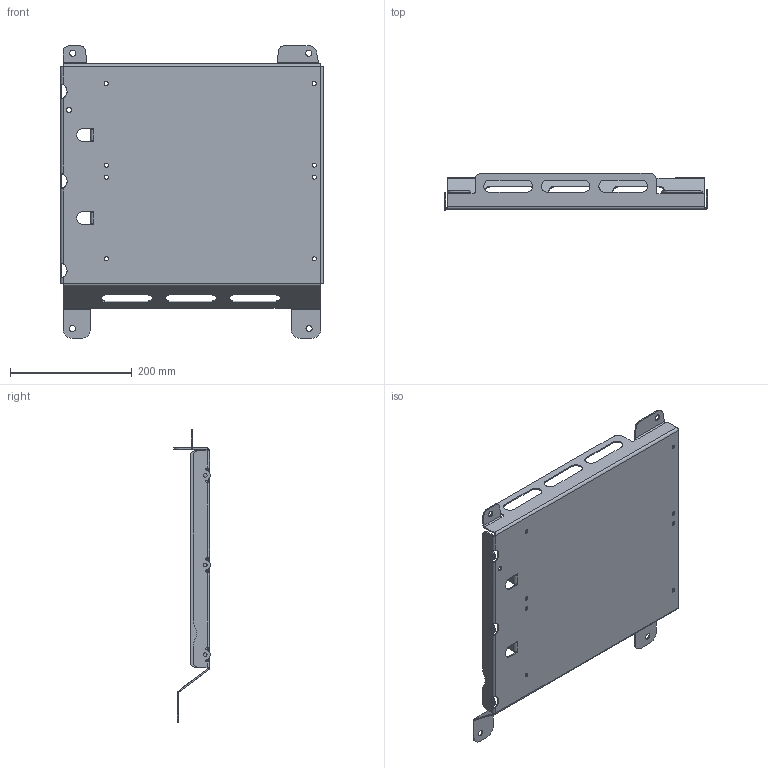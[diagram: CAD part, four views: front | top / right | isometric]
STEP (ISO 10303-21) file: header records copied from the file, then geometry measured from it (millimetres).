
FILE_DESCRIPTION(/* description */ (''),/* implementation_level */ '2;1');
FILE_NAME(/* name */ 'C:\Users\Windermac\Desktop\MASTER Honda Insight G1 IMA Bay\LiBCM003 - Battery Tray\47 Ah FoMoCo Aluminum Tray - RevA.stp',/* time_stamp */ '2022-08-18T04:25:45-04:00',/* author */ ('Windermac'),/* organization */ (''),/* preprocessor_version */ 'ST-DEVELOPER v16.5',/* originating_system */ 'Autodesk Inventor 2017',/* authorisation */ '');
FILE_SCHEMA (('AUTOMOTIVE_DESIGN { 1 0 10303 214 3 1 1 }'));
Length unit declared in the file: millimetre
Products named in the file (1): 47 Ah FoMoCo Aluminum Tray
Bounding box: 431.1 x 60.24 x 479.92 mm (x, y, z)
Volume: 445074.9 mm3; surface area: 442344.9 mm2
Topology: 1 solids, 1 shells, 190 faces, 518 edges, 324 vertices
Faces by surface type: plane 95, cylinder 89, bspline 6
Full cylindrical faces by diameter (mm): 6 x3, 6.6 x2, 6.782 x8, 8 x1, 10 x4
Entity records: 7133 total; most frequent: CARTESIAN_POINT 2214, DIRECTION 1012, ORIENTED_EDGE 1000, EDGE_CURVE 500, AXIS2_PLACEMENT_3D 363, VERTEX_POINT 324, LINE 286, VECTOR 286
